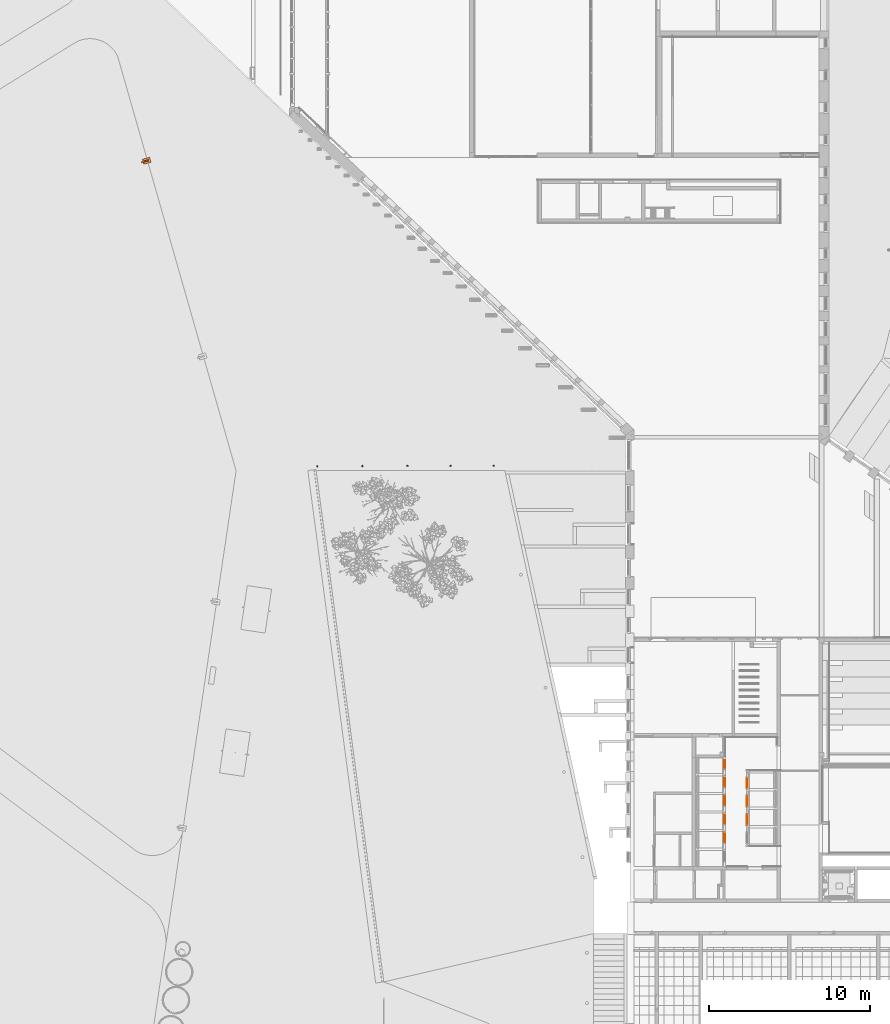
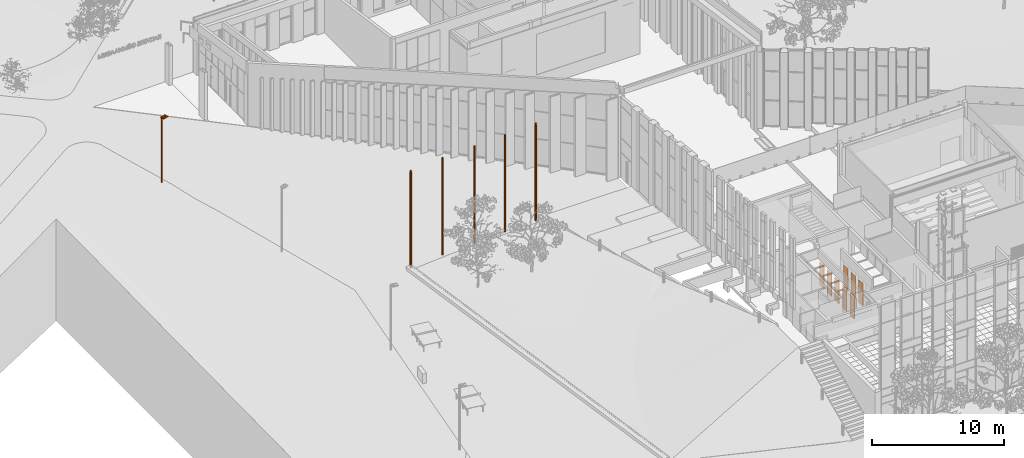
# One storey, part 205 of 246: 14 proxies, 2 elements without a shape of their own.
"""IFC2X3 building model written with IfcOpenShell, lengths in millimetres."""

from ifc_helpers import new_model, entity, si_unit, converted_unit, derived_unit, money_unit, direction, frame, origin_with_axes, place, context, subcontext, project, spatial, open_shell, faceted_brep, surface_model, source, transform, mapped, material, material_list, type_object, element, aggregate, save


model = new_model("IFC2X3")

# Units and contexts
model_context = context("Model", 3, precision=0.01, world=origin_with_axes(), true_north=direction((0.0, 1.0)))
body_context = subcontext(model_context, "Body", "Model", "MODEL_VIEW")
ifc_project = project(units=[si_unit("LENGTHUNIT", "METRE", prefix="MILLI"), si_unit("AREAUNIT", "SQUARE_METRE"), si_unit("VOLUMEUNIT", "CUBIC_METRE"), converted_unit("PLANEANGLEUNIT", "DEGREE", entity("IfcPlaneAngleMeasure", 0.0174532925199), si_unit("PLANEANGLEUNIT", "RADIAN"), dimensions=[0, 0, 0, 0, 0, 0, 0]), si_unit("SOLIDANGLEUNIT", "STERADIAN"), money_unit("EUR"), converted_unit("TIMEUNIT", "Year", entity("IfcTimeMeasure", 31556926.0), si_unit("TIMEUNIT", "SECOND"), dimensions=[0, 0, 1, 0, 0, 0, 0]), si_unit("MASSUNIT", "GRAM", prefix="KILO"), si_unit("THERMODYNAMICTEMPERATUREUNIT", "DEGREE_CELSIUS"), si_unit("LUMINOUSINTENSITYUNIT", "LUMEN"), si_unit("ENERGYUNIT", "JOULE", prefix="MEGA"), derived_unit("THERMALCONDUCTANCEUNIT", [(si_unit("POWERUNIT", "WATT"), 1), (si_unit("LENGTHUNIT", "METRE"), -1), (si_unit("THERMODYNAMICTEMPERATUREUNIT", "KELVIN"), -1)]), derived_unit("SPECIFICHEATCAPACITYUNIT", [(si_unit("ENERGYUNIT", "JOULE"), 1), (si_unit("MASSUNIT", "GRAM", prefix="KILO"), -1), (si_unit("THERMODYNAMICTEMPERATUREUNIT", "KELVIN"), -1)]), derived_unit("MASSDENSITYUNIT", [(si_unit("MASSUNIT", "GRAM", prefix="KILO"), 1), (si_unit("VOLUMEUNIT", "CUBIC_METRE"), -1)])], contexts=[model_context])

# Site, building, storey
site_placement = place(None, origin_with_axes())
site = spatial("IfcSite", under=ifc_project, at=site_placement, Name="L.Koidula tn 11b", CompositionType="ELEMENT")
building_placement = place(site_placement, origin_with_axes())
building = spatial("IfcBuilding", under=site, at=building_placement, Name="Rakvere Riigigümnaasium", CompositionType="ELEMENT")
storey_placement = place(building_placement, origin_with_axes())
storey = spatial("IfcBuildingStorey", under=building, at=storey_placement, Name="1.korrus 0,00", CompositionType="ELEMENT", Elevation=0.0)

# Curtain wall, proxies
curtain_wall_type = type_object("IfcCurtainWallType", Name="Curtain Wall Type", PredefinedType="NOTDEFINED")
curtain_wall_1_placement = place(storey_placement, frame((41170.0073165, 24038.4555472, 1.56205997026e-05), z_axis=(0.0, 0.0, 1.0), x_axis=(1.0, 0.0, 0.0)))
curtain_wall_1 = element("IfcCurtainWall", 1, at=curtain_wall_1_placement, inside=storey, type_object=curtain_wall_type, Name="SUS-01")
ifc_material_1 = material(Name="Alumiiniumprofiil (RAL 7021)")
ifc_material_2 = material(Name="MDF")
ifc_material_list = material_list([ifc_material_1, ifc_material_2])
building_element_proxy_type_1 = type_object("IfcBuildingElementProxyType", Name="SU-Sile 7 x 2100 x 0", PredefinedType="NOTDEFINED")
shared_shape_1 = source(origin_with_axes(), body_context, "Body", "SurfaceModel", [
    surface_model("IfcShellBasedSurfaceModel", [(650.000009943, 0.0, 50.0), (638.000009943, 0.0, 50.0), (638.000009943, 2099.99998859, 50.0), (650.000009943, 2111.99998859, 50.0)], [open_shell([[[0, 1, 2, 3]]])]),
    surface_model("IfcShellBasedSurfaceModel", [(638.000009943, 2099.99998859, 50.0), (12.0000044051, 2099.99998859, 50.0), (4.40512737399e-06, 2111.99998859, 50.0), (650.000009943, 2111.99998859, 50.0)], [open_shell([[[0, 1, 2, 3]]])]),
    surface_model("IfcShellBasedSurfaceModel", [(12.0000044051, 2099.99998859, 50.0), (12.0000044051, 0.0, 50.0), (4.40512737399e-06, 0.0, 50.0), (4.40512737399e-06, 2111.99998859, 50.0)], [open_shell([[[0, 1, 2, 3]]])]),
    surface_model("IfcShellBasedSurfaceModel", [(657.000014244, 0.0, 0.0), (638.000009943, 0.0, 0.0), (638.000009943, 2099.99998859, 0.0), (657.000014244, 2099.99998859, 0.0)], [open_shell([[[0, 1, 2, 3]]])]),
    surface_model("IfcShellBasedSurfaceModel", [(-7.00000002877, 2099.99998859, 0.0), (12.0000044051, 2099.99998859, 0.0), (12.0000044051, 0.0, 0.0), (-7.00000002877, 0.0, 0.0)], [open_shell([[[0, 1, 2, 3]]])]),
    faceted_brep([(4.4051269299e-06, 0.0, 38.1818181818), (4.4051269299e-06, 0.0, 0.0), (650.000009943, 0.0, 0.0), (650.000009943, 0.0, 38.1818181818), (4.4051269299e-06, 2111.99998859, 38.1818181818), (4.4051269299e-06, 2111.99998859, 0.0), (650.000009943, 2111.99998859, 0.0), (650.000009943, 2111.99998859, 38.1818181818)], [[[0, 1, 2, 3]], [[4, 5, 1, 0]], [[1, 5, 6, 2]], [[3, 2, 6, 7]], [[0, 3, 7, 4]], [[7, 6, 5, 4]]]),
    faceted_brep([(11.1428616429, 0.0, 50.0), (11.1428616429, 0.0, 38.1818181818), (638.857152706, 0.0, 38.1818181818), (638.857152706, 0.0, 50.0), (11.1428616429, 2099.93141722, 50.0), (11.1428616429, 2099.93141722, 38.1818181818), (638.857152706, 2099.93141722, 38.1818181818), (638.857152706, 2099.93141722, 50.0)], [[[0, 1, 2, 3]], [[4, 5, 1, 0]], [[1, 5, 6, 2]], [[3, 2, 6, 7]], [[0, 3, 7, 4]], [[7, 6, 5, 4]]]),
])
proxy_1_placement = place(curtain_wall_1_placement, frame((0.0, -342.000017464, 1049.99995298), z_axis=(0.0, 0.0, 1.0), x_axis=(0.0, 1.0, 0.0)))
proxy_1 = element("IfcBuildingElementProxy", 2, at=proxy_1_placement, type_object=building_element_proxy_type_1, material=ifc_material_list, Name="Panel-Curtain-Wa-008", context=body_context, shape_type="MappedRepresentation", body=[
    mapped(shared_shape_1, transform((325.000017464, 0.0, -1049.9999686), x_axis=(-1.0, 0.0, 0.0), y_axis=(0.0, 0.0, 1.0), z_axis=(0.0, 1.0, 0.0))),
])
proxy_2_placement = place(curtain_wall_1_placement, frame((0.0, -1472.00003493, 1049.99995298), z_axis=(0.0, 0.0, 1.0), x_axis=(0.0, 1.0, 0.0)))
proxy_2 = element("IfcBuildingElementProxy", 3, at=proxy_2_placement, type_object=building_element_proxy_type_1, material=ifc_material_list, Name="Panel-Curtain-Wa-009", context=body_context, shape_type="MappedRepresentation", body=[
    mapped(shared_shape_1, transform((325.0, 0.0, -1049.9999686), x_axis=(-1.0, 0.0, 0.0), y_axis=(0.0, 0.0, 1.0), z_axis=(0.0, 1.0, 0.0))),
])
proxy_3_placement = place(curtain_wall_1_placement, frame((0.0, -2622.00003493, 1049.99995298), z_axis=(0.0, 0.0, 1.0), x_axis=(0.0, 1.0, 0.0)))
proxy_3 = element("IfcBuildingElementProxy", 4, at=proxy_3_placement, type_object=building_element_proxy_type_1, material=ifc_material_list, Name="Panel-Curtain-Wa-010", context=body_context, shape_type="MappedRepresentation", body=[
    mapped(shared_shape_1, transform((325.0, 0.0, -1049.9999686), x_axis=(-1.0, 0.0, 0.0), y_axis=(0.0, 0.0, 1.0), z_axis=(0.0, 1.0, 0.0))),
])
proxy_4_placement = place(curtain_wall_1_placement, frame((0.0, -3772.00003493, 1049.99995298), z_axis=(0.0, 0.0, 1.0), x_axis=(0.0, 1.0, 0.0)))
proxy_4 = element("IfcBuildingElementProxy", 5, at=proxy_4_placement, type_object=building_element_proxy_type_1, material=ifc_material_list, Name="Panel-Curtain-Wa-011", context=body_context, shape_type="MappedRepresentation", body=[
    mapped(shared_shape_1, transform((325.0, 0.0, -1049.9999686), x_axis=(-1.0, 0.0, 0.0), y_axis=(0.0, 0.0, 1.0), z_axis=(0.0, 1.0, 0.0))),
])
proxy_5_placement = place(curtain_wall_1_placement, frame((0.0, -4922.00003493, 1049.99995298), z_axis=(0.0, 0.0, 1.0), x_axis=(0.0, 1.0, 0.0)))
proxy_5 = element("IfcBuildingElementProxy", 6, at=proxy_5_placement, type_object=building_element_proxy_type_1, material=ifc_material_list, Name="Panel-Curtain-Wa-012", context=body_context, shape_type="MappedRepresentation", body=[
    mapped(shared_shape_1, transform((325.0, 0.0, -1049.9999686), x_axis=(-1.0, 0.0, 0.0), y_axis=(0.0, 0.0, 1.0), z_axis=(0.0, 1.0, 0.0))),
])
aggregate(curtain_wall_1, [proxy_1, proxy_2, proxy_3, proxy_4, proxy_5])

curtain_wall_2_placement = place(storey_placement, frame((42519.9999626, 19079.4634323, 0.0), z_axis=(0.0, 0.0, 1.0), x_axis=(1.0, 0.0, 0.0)))
curtain_wall_2 = element("IfcCurtainWall", 7, at=curtain_wall_2_placement, inside=storey, type_object=curtain_wall_type, Name="SUS-02")
proxy_6_placement = place(curtain_wall_2_placement, frame((0.0, 1145.00791999, 1049.99999429), z_axis=(0.0, 0.0, 1.0), x_axis=(0.0, -1.0, 0.0)))
proxy_6 = element("IfcBuildingElementProxy", 8, at=proxy_6_placement, type_object=building_element_proxy_type_1, material=ifc_material_list, Name="Panel-Curtain-Wa-009", context=body_context, shape_type="MappedRepresentation", body=[
    mapped(shared_shape_1, transform((325.0, 0.0, -1049.99999429), x_axis=(-1.0, 0.0, 0.0), y_axis=(0.0, 0.0, 1.0), z_axis=(0.0, 1.0, 0.0))),
])
proxy_7_placement = place(curtain_wall_2_placement, frame((0.0, 2285.00791999, 1049.99999429), z_axis=(0.0, 0.0, 1.0), x_axis=(0.0, -1.0, 0.0)))
proxy_7 = element("IfcBuildingElementProxy", 9, at=proxy_7_placement, type_object=building_element_proxy_type_1, material=ifc_material_list, Name="Panel-Curtain-Wa-010", context=body_context, shape_type="MappedRepresentation", body=[
    mapped(shared_shape_1, transform((325.0, 0.0, -1049.99999429), x_axis=(-1.0, 0.0, 0.0), y_axis=(0.0, 0.0, 1.0), z_axis=(0.0, 1.0, 0.0))),
])
proxy_8_placement = place(curtain_wall_2_placement, frame((0.0, 3425.00791999, 1049.99999429), z_axis=(0.0, 0.0, 1.0), x_axis=(0.0, -1.0, 0.0)))
proxy_8 = element("IfcBuildingElementProxy", 10, at=proxy_8_placement, type_object=building_element_proxy_type_1, material=ifc_material_list, Name="Panel-Curtain-Wa-011", context=body_context, shape_type="MappedRepresentation", body=[
    mapped(shared_shape_1, transform((325.0, 0.0, -1049.99999429), x_axis=(-1.0, 0.0, 0.0), y_axis=(0.0, 0.0, 1.0), z_axis=(0.0, 1.0, 0.0))),
])
aggregate(curtain_wall_2, [proxy_6, proxy_7, proxy_8])

# Proxies
building_element_proxy_type_2 = type_object("IfcBuildingElementProxyType", Name="Väls valgusti - VFL530 LED", PredefinedType="NOTDEFINED")
shared_shape_2 = source(origin_with_axes(), body_context, "Body", "Brep", [
    faceted_brep([(468.863076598, 125.0, 5952.26982842), (468.863076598, 205.0, 5952.26982842), (470.0, 205.0, 5967.74900907), (470.0, 125.0, 5967.74900907), (100.0, 205.0, 5952.26982842), (100.0, 125.0, 5952.26982842), (100.0, 205.0, 5944.7902874), (-3.66256168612, 205.0, 5952.40415243), (0.0, 205.0, 6002.26982842), (0.0, 125.0, 6002.26982842), (-3.66256168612, 125.0, 5952.40415243), (100.0, 125.0, 5944.7902874)], [[[0, 1, 2, 3]], [[4, 1, 0, 5]], [[4, 6, 7, 8, 2, 1]], [[2, 8, 9, 3]], [[5, 0, 3, 9, 10, 11]], [[6, 4, 5, 11]], [[6, 11, 10, 7]], [[8, 7, 10, 9]]]),
    faceted_brep([(100.0, 330.0, 5902.26982842), (100.0, 0.0, 5902.26982842), (100.0, 0.0, 5952.26982842), (100.0, 330.0, 5952.26982842), (570.0, 330.0, 5902.26982842), (570.0, 0.0, 5902.26982842), (570.0, 0.0, 5952.26982842), (570.0, 330.0, 5952.26982842)], [[[0, 1, 2, 3]], [[0, 4, 5, 1]], [[1, 5, 6, 2]], [[3, 2, 6, 7]], [[4, 0, 3, 7]], [[5, 4, 7, 6]]]),
    faceted_brep([(76.9551813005, 180.307337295, 5946.48289596), (80.0, 165.0, 5946.25925843), (80.0, 165.0, 0.0), (76.9551813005, 180.307337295, 0.0), (76.9551813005, 149.692662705, 5946.48289596), (68.2842712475, 193.284271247, 5947.11976174), (55.3073372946, 201.9551813, 5948.07289875), (40.0, 205.0, 5949.19720051), (24.6926627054, 201.9551813, 5950.32150226), (11.7157287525, 193.284271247, 5951.27463927), (3.04481869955, 180.307337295, 5951.91150505), (0.0, 165.0, 5952.13514258), (3.04481869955, 149.692662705, 5951.91150505), (11.7157287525, 136.715728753, 5951.27463927), (24.6926627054, 128.0448187, 5950.32150226), (40.0, 125.0, 5949.19720051), (55.3073372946, 128.0448187, 5948.07289875), (68.2842712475, 136.715728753, 5947.11976174), (76.9551813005, 149.692662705, 0.0), (3.04481869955, 149.692662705, 0.0), (0.0, 165.0, 0.0), (3.04481869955, 180.307337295, 0.0), (11.7157287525, 193.284271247, 0.0), (24.6926627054, 201.9551813, 0.0), (40.0, 205.0, 0.0), (55.3073372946, 201.9551813, 0.0), (68.2842712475, 193.284271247, 0.0), (68.2842712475, 136.715728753, 0.0), (55.3073372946, 128.0448187, 0.0), (40.0, 125.0, 0.0), (24.6926627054, 128.0448187, 0.0), (11.7157287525, 136.715728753, 0.0)], [[[0, 1, 2, 3]], [[4, 1, 0, 5, 6, 7, 8, 9, 10, 11, 12, 13, 14, 15, 16, 17]], [[1, 4, 18, 2]], [[19, 20, 21, 22, 23, 24, 25, 26, 3, 2, 18, 27, 28, 29, 30, 31]], [[5, 0, 3, 26]], [[6, 5, 26, 25]], [[7, 6, 25, 24]], [[8, 7, 24, 23]], [[9, 8, 23, 22]], [[10, 9, 22, 21]], [[11, 10, 21, 20]], [[12, 11, 20, 19]], [[13, 12, 19, 31]], [[14, 13, 31, 30]], [[15, 14, 30, 29]], [[16, 15, 29, 28]], [[17, 16, 28, 27]], [[4, 17, 27, 18]]]),
])
proxy_9_placement = place(storey_placement, frame((4978.95050237, 60882.4358121, -330.561701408), z_axis=(0.0, 0.0, 1.0), x_axis=(0.961134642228, 0.276080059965, 0.0)))
element("IfcBuildingElementProxy", 11, at=proxy_9_placement, inside=storey, type_object=building_element_proxy_type_2, material=ifc_material_1, Name="Tänava valgusti", context=body_context, shape_type="MappedRepresentation", body=[
    mapped(shared_shape_2, transform((0.0, 0.0, 0.0))),
])
building_element_proxy_type_3 = type_object("IfcBuildingElementProxyType", Name="Bollard 23", PredefinedType="NOTDEFINED")
shared_shape_3 = source(origin_with_axes(), body_context, "Body", "Brep", [
    faceted_brep([(51.9615242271, -30.0, 0.0), (30.0, -51.9615242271, 0.0), (0.0, -60.0, 0.0), (-30.0, -51.9615242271, 0.0), (-51.9615242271, -30.0, 0.0), (-60.0, 0.0, 0.0), (-51.9615242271, 30.0, 0.0), (-30.0, 51.9615242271, 0.0), (0.0, 60.0, 0.0), (30.0, 51.9615242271, 0.0), (51.9615242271, 30.0, 0.0), (60.0, 0.0, 0.0), (51.9615242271, -30.0, 8832.96245098), (30.0, -51.9615242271, 8832.96245098), (0.0, -60.0, 8832.96245098), (-30.0, -51.9615242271, 8832.96245098), (-51.9615242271, -30.0, 8832.96245098), (-60.0, 0.0, 8832.96245098), (-51.9615242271, 30.0, 8832.96245098), (-30.0, 51.9615242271, 8832.96245098), (0.0, 60.0, 8832.96245098), (30.0, 51.9615242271, 8832.96245098), (51.9615242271, 30.0, 8832.96245098), (60.0, 0.0, 8832.96245098)], [[[0, 1, 2, 3, 4, 5, 6, 7, 8, 9, 10, 11]], [[1, 0, 12, 13]], [[2, 1, 13, 14]], [[3, 2, 14, 15]], [[4, 3, 15, 16]], [[5, 4, 16, 17]], [[6, 5, 17, 18]], [[7, 6, 18, 19]], [[8, 7, 19, 20]], [[9, 8, 20, 21]], [[10, 9, 21, 22]], [[11, 10, 22, 23]], [[0, 11, 23, 12]], [[12, 23, 22, 21, 20, 19, 18, 17, 16, 15, 14, 13]]]),
    faceted_brep([(3.0, 5.19615242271, 8832.96245098), (0.0, 6.0, 8832.96245098), (0.0, 60.0, 8832.96245098), (30.0, 51.9615242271, 8832.96245098), (5.19615242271, 3.0, 8832.96245098), (6.0, 0.0, 8832.96245098), (5.19615242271, -3.0, 8832.96245098), (3.0, -5.19615242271, 8832.96245098), (0.0, -6.0, 8832.96245098), (-3.0, -5.19615242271, 8832.96245098), (-5.19615242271, -3.0, 8832.96245098), (-6.0, 0.0, 8832.96245098), (-5.19615242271, 3.0, 8832.96245098), (-3.0, 5.19615242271, 8832.96245098), (-30.0, 51.9615242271, 8832.96245098), (0.0, 60.0, 8842.81923218), (30.0, 51.9615242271, 8842.81923218), (51.9615242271, 30.0, 8832.96245098), (60.0, 0.0, 8832.96245098), (51.9615242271, -30.0, 8832.96245098), (30.0, -51.9615242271, 8832.96245098), (0.0, -60.0, 8832.96245098), (-30.0, -51.9615242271, 8832.96245098), (-51.9615242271, -30.0, 8832.96245098), (-60.0, 0.0, 8832.96245098), (-51.9615242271, 30.0, 8832.96245098), (-30.0, 51.9615242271, 8842.81923218), (0.0, 50.2747571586, 8846.83173262), (25.1373785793, 43.5392168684, 8846.83173262), (51.9615242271, 30.0, 8842.81923218), (60.0, 0.0, 8842.81923218), (51.9615242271, -30.0, 8842.81923218), (30.0, -51.9615242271, 8842.81923218), (0.0, -60.0, 8842.81923218), (-30.0, -51.9615242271, 8842.81923218), (-51.9615242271, -30.0, 8842.81923218), (-60.0, 0.0, 8842.81923218), (-51.9615242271, 30.0, 8842.81923218), (-25.1373785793, 43.5392168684, 8846.83173262), (0.0, 42.7957819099, 8857.94245505), (21.3978909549, 37.0622343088, 8857.94245505), (43.5392168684, 25.1373785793, 8846.83173262), (50.2747571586, 0.0, 8846.83173262), (43.5392168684, -25.1373785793, 8846.83173262), (25.1373785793, -43.5392168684, 8846.83173262), (0.0, -50.2747571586, 8846.83173262), (-25.1373785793, -43.5392168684, 8846.83173262), (-43.5392168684, -25.1373785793, 8846.83173262), (-50.2747571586, 0.0, 8846.83173262), (-43.5392168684, 25.1373785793, 8846.83173262), (-21.3978909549, 37.0622343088, 8857.94245505), (0.0, 39.2905148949, 8873.58512364), (19.6452574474, 34.0265840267, 8873.58512364), (37.0622343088, 21.3978909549, 8857.94245505), (42.7957819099, 0.0, 8857.94245505), (37.0622343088, -21.3978909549, 8857.94245505), (21.3978909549, -37.0622343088, 8857.94245505), (0.0, -42.7957819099, 8857.94245505), (-21.3978909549, -37.0622343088, 8857.94245505), (-37.0622343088, -21.3978909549, 8857.94245505), (-42.7957819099, 0.0, 8857.94245505), (-37.0622343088, 21.3978909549, 8857.94245505), (-19.6452574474, 34.0265840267, 8873.58512364), (0.0, 40.5685778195, 8890.14670577), (20.2842889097, 35.1334189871, 8890.14670577), (34.0265840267, 19.6452574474, 8873.58512364), (39.2905148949, 0.0, 8873.58512364), (34.0265840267, -19.6452574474, 8873.58512364), (19.6452574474, -34.0265840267, 8873.58512364), (0.0, -39.2905148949, 8873.58512364), (-19.6452574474, -34.0265840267, 8873.58512364), (-34.0265840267, -19.6452574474, 8873.58512364), (-39.2905148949, 0.0, 8873.58512364), (-34.0265840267, 19.6452574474, 8873.58512364), (-20.2842889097, 35.1334189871, 8890.14670577), (0.0, 46.3347727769, 8903.80192471), (23.1673863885, 40.1270903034, 8903.80192471), (35.1334189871, 20.2842889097, 8890.14670577), (40.5685778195, 0.0, 8890.14670577), (35.1334189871, -20.2842889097, 8890.14670577), (20.2842889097, -35.1334189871, 8890.14670577), (0.0, -40.5685778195, 8890.14670577), (-20.2842889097, -35.1334189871, 8890.14670577), (-35.1334189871, -20.2842889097, 8890.14670577), (-40.5685778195, 0.0, 8890.14670577), (-35.1334189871, 20.2842889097, 8890.14670577), (-23.1673863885, 40.1270903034, 8903.80192471), (0.0, 44.7340117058, 8904.0), (22.3670058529, 38.7407905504, 8904.0), (40.1270903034, 23.1673863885, 8903.80192471), (46.3347727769, 0.0, 8903.80192471), (40.1270903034, -23.1673863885, 8903.80192471), (23.1673863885, -40.1270903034, 8903.80192471), (0.0, -46.3347727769, 8903.80192471), (-23.1673863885, -40.1270903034, 8903.80192471), (-40.1270903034, -23.1673863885, 8903.80192471), (-46.3347727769, 0.0, 8903.80192471), (-40.1270903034, 23.1673863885, 8903.80192471), (-22.3670058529, 38.7407905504, 8904.0), (-38.7407905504, 22.3670058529, 8904.0), (-44.7340117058, 0.0, 8904.0), (-38.7407905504, -22.3670058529, 8904.0), (-22.3670058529, -38.7407905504, 8904.0), (0.0, -44.7340117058, 8904.0), (22.3670058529, -38.7407905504, 8904.0), (38.7407905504, -22.3670058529, 8904.0), (44.7340117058, 0.0, 8904.0), (38.7407905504, 22.3670058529, 8904.0)], [[[0, 1, 2, 3]], [[1, 0, 4, 5, 6, 7, 8, 9, 10, 11, 12, 13]], [[1, 13, 14, 2]], [[3, 2, 15, 16]], [[4, 0, 3, 17]], [[5, 4, 17, 18]], [[6, 5, 18, 19]], [[7, 6, 19, 20]], [[8, 7, 20, 21]], [[9, 8, 21, 22]], [[10, 9, 22, 23]], [[11, 10, 23, 24]], [[12, 11, 24, 25]], [[13, 12, 25, 14]], [[2, 14, 26, 15]], [[16, 15, 27, 28]], [[17, 3, 16, 29]], [[18, 17, 29, 30]], [[19, 18, 30, 31]], [[20, 19, 31, 32]], [[21, 20, 32, 33]], [[22, 21, 33, 34]], [[23, 22, 34, 35]], [[24, 23, 35, 36]], [[25, 24, 36, 37]], [[14, 25, 37, 26]], [[15, 26, 38, 27]], [[28, 27, 39, 40]], [[29, 16, 28, 41]], [[30, 29, 41, 42]], [[31, 30, 42, 43]], [[32, 31, 43, 44]], [[33, 32, 44, 45]], [[34, 33, 45, 46]], [[35, 34, 46, 47]], [[36, 35, 47, 48]], [[37, 36, 48, 49]], [[26, 37, 49, 38]], [[27, 38, 50, 39]], [[40, 39, 51, 52]], [[41, 28, 40, 53]], [[42, 41, 53, 54]], [[43, 42, 54, 55]], [[44, 43, 55, 56]], [[45, 44, 56, 57]], [[46, 45, 57, 58]], [[47, 46, 58, 59]], [[48, 47, 59, 60]], [[49, 48, 60, 61]], [[38, 49, 61, 50]], [[39, 50, 62, 51]], [[52, 51, 63, 64]], [[53, 40, 52, 65]], [[54, 53, 65, 66]], [[55, 54, 66, 67]], [[56, 55, 67, 68]], [[57, 56, 68, 69]], [[58, 57, 69, 70]], [[59, 58, 70, 71]], [[60, 59, 71, 72]], [[61, 60, 72, 73]], [[50, 61, 73, 62]], [[51, 62, 74, 63]], [[64, 63, 75, 76]], [[65, 52, 64, 77]], [[66, 65, 77, 78]], [[67, 66, 78, 79]], [[68, 67, 79, 80]], [[69, 68, 80, 81]], [[70, 69, 81, 82]], [[71, 70, 82, 83]], [[72, 71, 83, 84]], [[73, 72, 84, 85]], [[62, 73, 85, 74]], [[63, 74, 86, 75]], [[76, 75, 87, 88]], [[77, 64, 76, 89]], [[78, 77, 89, 90]], [[79, 78, 90, 91]], [[80, 79, 91, 92]], [[81, 80, 92, 93]], [[82, 81, 93, 94]], [[83, 82, 94, 95]], [[84, 83, 95, 96]], [[85, 84, 96, 97]], [[74, 85, 97, 86]], [[75, 86, 98, 87]], [[87, 98, 99, 100, 101, 102, 103, 104, 105, 106, 107, 88]], [[89, 76, 88, 107]], [[90, 89, 107, 106]], [[91, 90, 106, 105]], [[92, 91, 105, 104]], [[93, 92, 104, 103]], [[94, 93, 103, 102]], [[95, 94, 102, 101]], [[96, 95, 101, 100]], [[97, 96, 100, 99]], [[86, 97, 99, 98]]]),
    faceted_brep([(30.0, 0.0, 8991.96152423), (0.0, 0.0, 9000.0), (25.9807621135, -15.0, 8991.96152423), (25.9807621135, 15.0, 8991.96152423), (15.0, -25.9807621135, 8991.96152423), (51.9615242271, 0.0, 8970.0), (45.0, -25.9807621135, 8970.0), (15.0, 25.9807621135, 8991.96152423), (45.0, 25.9807621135, 8970.0), (0.0, -30.0, 8991.96152423), (25.9807621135, -45.0, 8970.0), (60.0, 0.0, 8940.0), (51.9615242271, -30.0, 8940.0), (0.0, 30.0, 8991.96152423), (25.9807621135, 45.0, 8970.0), (51.9615242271, 30.0, 8940.0), (-15.0, -25.9807621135, 8991.96152423), (0.0, -51.9615242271, 8970.0), (30.0, -51.9615242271, 8940.0), (51.9615242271, 0.0, 8910.0), (45.0, -25.9807621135, 8910.0), (-15.0, 25.9807621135, 8991.96152423), (0.0, 51.9615242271, 8970.0), (30.0, 51.9615242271, 8940.0), (45.0, 25.9807621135, 8910.0), (-25.9807621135, -15.0, 8991.96152423), (-25.9807621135, -45.0, 8970.0), (0.0, -60.0, 8940.0), (25.9807621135, -45.0, 8910.0), (30.0, 0.0, 8888.03847577), (25.9807621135, -15.0, 8888.03847577), (-25.9807621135, 15.0, 8991.96152423), (-25.9807621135, 45.0, 8970.0), (0.0, 60.0, 8940.0), (25.9807621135, 45.0, 8910.0), (25.9807621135, 15.0, 8888.03847577), (-30.0, 0.0, 8991.96152423), (-45.0, -25.9807621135, 8970.0), (-30.0, -51.9615242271, 8940.0), (0.0, -51.9615242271, 8910.0), (15.0, -25.9807621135, 8888.03847577), (0.0, 0.0, 8880.0), (-45.0, 25.9807621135, 8970.0), (-30.0, 51.9615242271, 8940.0), (0.0, 51.9615242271, 8910.0), (15.0, 25.9807621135, 8888.03847577), (-51.9615242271, 0.0, 8970.0), (-51.9615242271, -30.0, 8940.0), (-25.9807621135, -45.0, 8910.0), (0.0, -30.0, 8888.03847577), (-51.9615242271, 30.0, 8940.0), (-25.9807621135, 45.0, 8910.0), (0.0, 30.0, 8888.03847577), (-60.0, 0.0, 8940.0), (-45.0, -25.9807621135, 8910.0), (-15.0, -25.9807621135, 8888.03847577), (-45.0, 25.9807621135, 8910.0), (-15.0, 25.9807621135, 8888.03847577), (-51.9615242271, 0.0, 8910.0), (-25.9807621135, -15.0, 8888.03847577), (-25.9807621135, 15.0, 8888.03847577), (-30.0, 0.0, 8888.03847577)], [[[0, 1, 2]], [[3, 1, 0]], [[2, 1, 4]], [[5, 0, 2, 6]], [[7, 1, 3]], [[8, 3, 0, 5]], [[4, 1, 9]], [[6, 2, 4, 10]], [[11, 5, 6, 12]], [[13, 1, 7]], [[14, 7, 3, 8]], [[15, 8, 5, 11]], [[9, 1, 16]], [[10, 4, 9, 17]], [[12, 6, 10, 18]], [[19, 11, 12, 20]], [[21, 1, 13]], [[22, 13, 7, 14]], [[23, 14, 8, 15]], [[24, 15, 11, 19]], [[16, 1, 25]], [[17, 9, 16, 26]], [[18, 10, 17, 27]], [[20, 12, 18, 28]], [[29, 19, 20, 30]], [[31, 1, 21]], [[32, 21, 13, 22]], [[33, 22, 14, 23]], [[34, 23, 15, 24]], [[35, 24, 19, 29]], [[25, 1, 36]], [[26, 16, 25, 37]], [[27, 17, 26, 38]], [[28, 18, 27, 39]], [[30, 20, 28, 40]], [[41, 29, 30]], [[36, 1, 31]], [[42, 31, 21, 32]], [[43, 32, 22, 33]], [[44, 33, 23, 34]], [[45, 34, 24, 35]], [[41, 35, 29]], [[37, 25, 36, 46]], [[38, 26, 37, 47]], [[39, 27, 38, 48]], [[40, 28, 39, 49]], [[41, 30, 40]], [[46, 36, 31, 42]], [[50, 42, 32, 43]], [[51, 43, 33, 44]], [[52, 44, 34, 45]], [[41, 45, 35]], [[47, 37, 46, 53]], [[48, 38, 47, 54]], [[49, 39, 48, 55]], [[41, 40, 49]], [[53, 46, 42, 50]], [[56, 50, 43, 51]], [[57, 51, 44, 52]], [[41, 52, 45]], [[54, 47, 53, 58]], [[55, 48, 54, 59]], [[41, 49, 55]], [[58, 53, 50, 56]], [[60, 56, 51, 57]], [[41, 57, 52]], [[59, 54, 58, 61]], [[41, 55, 59]], [[61, 58, 56, 60]], [[41, 60, 57]], [[41, 59, 61]], [[41, 61, 60]]]),
])
for number, where, z_axis, x_axis in (
    (12, (15843.5997431, 42158.4915025, -561.100557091), (0.0, 0.0, 1.0), (1.0, 0.0, 0.0)),
    (13, (18642.9535939, 42175.9834606, -361.106542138), (0.0, 0.0, 1.0), (1.0, 0.0, 0.0)),
    (14, (21442.3074446, 42193.4754187, -255.443563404), (0.0, 0.0, 1.0), (1.0, 0.0, 0.0)),
    (15, (24119.2036287, 42194.861711, -159.852245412), (0.0, 0.0, 1.0), (1.0, 0.0, 0.0)),
    (16, (26796.099813, 42196.2480024, -30.3340633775), (0.0, 0.0, 1.0), (1.0, 0.0, 0.0)),
):
    element("IfcBuildingElementProxy", number, at=place(storey_placement, frame(where, z_axis=z_axis, x_axis=x_axis)), inside=storey, type_object=building_element_proxy_type_3, Name="Lipumast", context=body_context, shape_type="MappedRepresentation", body=[
        mapped(shared_shape_3, transform((0.0, 0.0, 0.0))),
    ])

save(model, "model.ifc")
